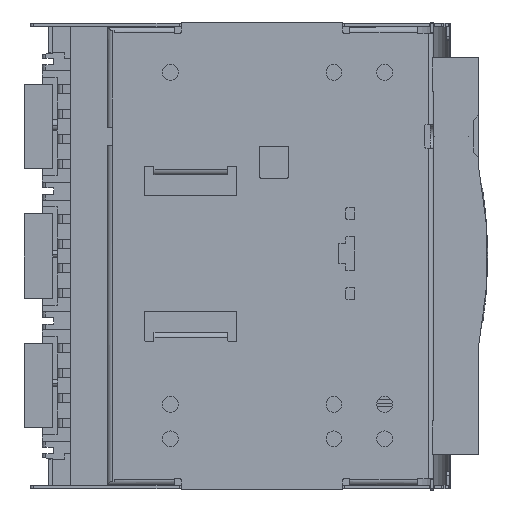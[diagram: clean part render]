
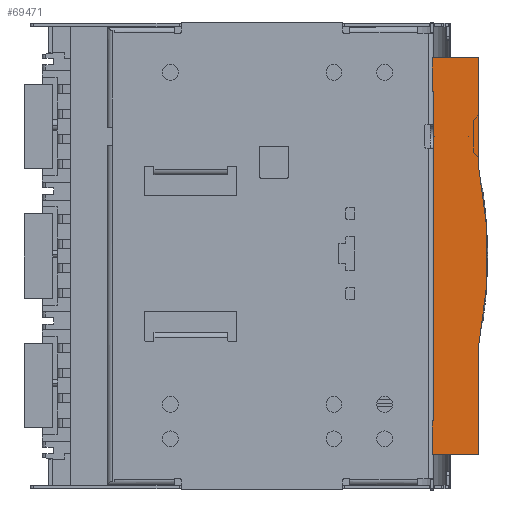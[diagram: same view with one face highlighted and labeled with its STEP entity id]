
A CAD part, front view. The second image highlights one B-rep face of the part: STEP entity #69471.
In plain terms, the highlighted planar face has unit normal (0, -1, 0).
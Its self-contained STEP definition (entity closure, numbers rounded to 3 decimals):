
#2566 = ORIENTED_EDGE ( 'NONE', *, *, #37735, .F. ) ;
#3176 = AXIS2_PLACEMENT_3D ( 'NONE', #32448, #5351, #83688 ) ;
#3326 = CARTESIAN_POINT ( 'NONE',  ( 590.656, 188.813, -145.312 ) ) ;
#3380 = VECTOR ( 'NONE', #90774, 1000. ) ;
#3392 = EDGE_CURVE ( 'NONE', #125701, #154337, #137184, .T. ) ;
#4633 = CARTESIAN_POINT ( 'NONE',  ( 549.399, 188.813, 206.688 ) ) ;
#5351 = DIRECTION ( 'NONE',  ( 0., 1., 0. ) ) ;
#7562 = VERTEX_POINT ( 'NONE', #3326 ) ;
#9180 = DIRECTION ( 'NONE',  ( 0., 0., -1. ) ) ;
#9897 = CARTESIAN_POINT ( 'NONE',  ( 590.656, 188.813, 206.688 ) ) ;
#14570 = LINE ( 'NONE', #34824, #43512 ) ;
#14918 = DIRECTION ( 'NONE',  ( 0., 0., -1. ) ) ;
#15034 = VERTEX_POINT ( 'NONE', #141111 ) ;
#17178 = AXIS2_PLACEMENT_3D ( 'NONE', #141606, #38615, #104213 ) ;
#19868 = LINE ( 'NONE', #66790, #50821 ) ;
#21560 = DIRECTION ( 'NONE',  ( -1., 0., 0. ) ) ;
#26322 = ORIENTED_EDGE ( 'NONE', *, *, #157991, .T. ) ;
#26838 = CARTESIAN_POINT ( 'NONE',  ( 549.399, 188.813, 249.898 ) ) ;
#29374 = ORIENTED_EDGE ( 'NONE', *, *, #3392, .F. ) ;
#30783 = ORIENTED_EDGE ( 'NONE', *, *, #66109, .T. ) ;
#32448 = CARTESIAN_POINT ( 'NONE',  ( 203.456, 188.813, 30.688 ) ) ;
#34824 = CARTESIAN_POINT ( 'NONE',  ( 549.399, 188.813, 249.898 ) ) ;
#35920 = CARTESIAN_POINT ( 'NONE',  ( 550.656, 188.813, -145.312 ) ) ;
#36098 = VECTOR ( 'NONE', #9180, 1000. ) ;
#37735 = EDGE_CURVE ( 'NONE', #112811, #15034, #161644, .T. ) ;
#38615 = DIRECTION ( 'NONE',  ( 0., 1., 0. ) ) ;
#43512 = VECTOR ( 'NONE', #60819, 1000. ) ;
#43772 = EDGE_CURVE ( 'NONE', #78980, #144629, #14570, .T. ) ;
#43979 = PLANE ( 'NONE',  #3176 ) ;
#46935 = CARTESIAN_POINT ( 'NONE',  ( 550.656, 188.813, -115.312 ) ) ;
#48150 = VERTEX_POINT ( 'NONE', #4633 ) ;
#48386 = EDGE_CURVE ( 'NONE', #60891, #125701, #60774, .T. ) ;
#50796 = ORIENTED_EDGE ( 'NONE', *, *, #136729, .F. ) ;
#50821 = VECTOR ( 'NONE', #118563, 1000. ) ;
#53992 = EDGE_CURVE ( 'NONE', #154337, #7562, #169864, .T. ) ;
#59954 = CARTESIAN_POINT ( 'NONE',  ( 590.656, 188.813, 206.688 ) ) ;
#60774 = LINE ( 'NONE', #59954, #36098 ) ;
#60819 = DIRECTION ( 'NONE',  ( 0., 0., -1. ) ) ;
#60891 = VERTEX_POINT ( 'NONE', #9897 ) ;
#64288 = CARTESIAN_POINT ( 'NONE',  ( 549.399, 188.813, 176.688 ) ) ;
#64450 = DIRECTION ( 'NONE',  ( 1., 0., 0. ) ) ;
#66109 = EDGE_CURVE ( 'NONE', #48150, #118911, #112595, .T. ) ;
#66790 = CARTESIAN_POINT ( 'NONE',  ( 550.656, 188.813, 206.688 ) ) ;
#68244 = CARTESIAN_POINT ( 'NONE',  ( 549.399, 188.813, -115.312 ) ) ;
#69471 = ADVANCED_FACE ( 'NONE', ( #124318 ), #43979, .F. ) ;
#70519 = DIRECTION ( 'NONE',  ( 0., 0., 1. ) ) ;
#71534 = CARTESIAN_POINT ( 'NONE',  ( 590.656, 188.813, 108.798 ) ) ;
#74084 = VECTOR ( 'NONE', #21560, 1000. ) ;
#78980 = VERTEX_POINT ( 'NONE', #68244 ) ;
#82916 = ORIENTED_EDGE ( 'NONE', *, *, #48386, .F. ) ;
#83688 = DIRECTION ( 'NONE',  ( 0., 0., -1. ) ) ;
#85527 = VECTOR ( 'NONE', #156612, 1000. ) ;
#86109 = CARTESIAN_POINT ( 'NONE',  ( 493.373, 188.813, -115.312 ) ) ;
#90774 = DIRECTION ( 'NONE',  ( 0., 0., -1. ) ) ;
#93804 = CARTESIAN_POINT ( 'NONE',  ( 590.656, 188.813, -145.312 ) ) ;
#99769 = CARTESIAN_POINT ( 'NONE',  ( 549.399, 188.813, -145.312 ) ) ;
#104213 = DIRECTION ( 'NONE',  ( 1., 0., 0. ) ) ;
#105949 = LINE ( 'NONE', #86109, #85527 ) ;
#112562 = ORIENTED_EDGE ( 'NONE', *, *, #43772, .T. ) ;
#112595 = LINE ( 'NONE', #26838, #3380 ) ;
#112811 = VERTEX_POINT ( 'NONE', #46935 ) ;
#117316 = LINE ( 'NONE', #35920, #74084 ) ;
#118563 = DIRECTION ( 'NONE',  ( 1., 0., 0. ) ) ;
#118911 = VERTEX_POINT ( 'NONE', #64288 ) ;
#124318 = FACE_OUTER_BOUND ( 'NONE', #139199, .T. ) ;
#125701 = VERTEX_POINT ( 'NONE', #71534 ) ;
#126030 = EDGE_CURVE ( 'NONE', #48150, #60891, #19868, .T. ) ;
#129009 = ORIENTED_EDGE ( 'NONE', *, *, #53992, .F. ) ;
#130051 = CARTESIAN_POINT ( 'NONE',  ( 493.373, 188.813, 176.688 ) ) ;
#133749 = CARTESIAN_POINT ( 'NONE',  ( 550.656, 188.813, 206.688 ) ) ;
#134900 = VECTOR ( 'NONE', #14918, 1000. ) ;
#136729 = EDGE_CURVE ( 'NONE', #78980, #112811, #105949, .T. ) ;
#137184 = CIRCLE ( 'NONE', #17178, 395. ) ;
#139105 = ORIENTED_EDGE ( 'NONE', *, *, #161786, .F. ) ;
#139199 = EDGE_LOOP ( 'NONE', ( #2566, #50796, #112562, #139105, #129009, #29374, #82916, #149835, #30783, #26322 ) ) ;
#141111 = CARTESIAN_POINT ( 'NONE',  ( 550.656, 188.813, 176.688 ) ) ;
#141606 = CARTESIAN_POINT ( 'NONE',  ( 203.456, 188.813, 30.688 ) ) ;
#144629 = VERTEX_POINT ( 'NONE', #99769 ) ;
#149835 = ORIENTED_EDGE ( 'NONE', *, *, #126030, .F. ) ;
#154337 = VERTEX_POINT ( 'NONE', #170461 ) ;
#156612 = DIRECTION ( 'NONE',  ( 1., 0., 0. ) ) ;
#157991 = EDGE_CURVE ( 'NONE', #118911, #15034, #161993, .T. ) ;
#161644 = LINE ( 'NONE', #133749, #163648 ) ;
#161786 = EDGE_CURVE ( 'NONE', #7562, #144629, #117316, .T. ) ;
#161993 = LINE ( 'NONE', #130051, #164157 ) ;
#163648 = VECTOR ( 'NONE', #70519, 1000. ) ;
#164157 = VECTOR ( 'NONE', #64450, 1000. ) ;
#169864 = LINE ( 'NONE', #93804, #134900 ) ;
#170461 = CARTESIAN_POINT ( 'NONE',  ( 590.656, 188.813, -47.422 ) ) ;
